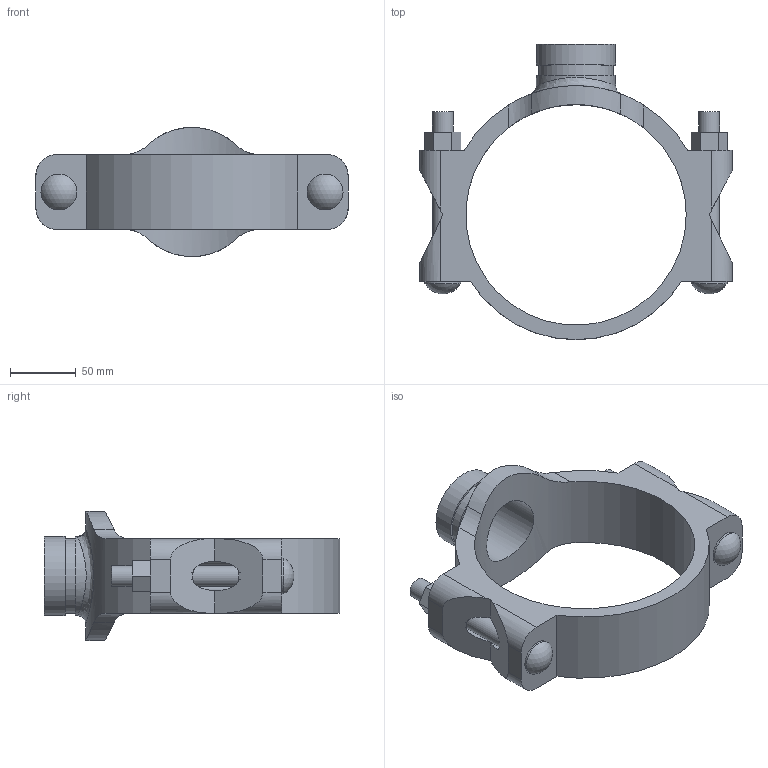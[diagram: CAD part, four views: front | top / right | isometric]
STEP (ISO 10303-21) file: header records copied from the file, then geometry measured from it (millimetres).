
FILE_DESCRIPTION(/* description */ ('VIC SS MECHANICAL T BRANCH OUTLET STYLE 422 (OGS)','CAx-IF Rec.Pracs.---Representation and Presentation of Product Manufacturing Information (PMI)---4.0---2014-10-13'),/* implementation_level */ '2;1');
FILE_NAME(/* name */ 'C:\Files for Export\422\STEP\Victaulic_SS-OGS_Mech-Tee Out_Style 422 (OGS)\Victaulic_SS-OGS_Mech-Tee Out_Style 422 (OGS)_06.0x02.0 (150x50).stp',/* time_stamp */ '2023-03-28T13:59:53+02:00',/* author */ ('jheald'),/* organization */ ('Victaulic'),/* preprocessor_version */ 'ST-DEVELOPER v18.1',/* originating_system */ 'Autodesk Inventor 2020',/* authorisation */ '');
FILE_SCHEMA (('AP242_MANAGED_MODEL_BASED_3D_ENGINEERING_MIM_LF { 1 0 10303 442 1 1 4 }'));
Length unit declared in the file: inch
Products named in the file (1): 422-06.0x02.0
Bounding box: 238.25 x 225.55 x 98.55 mm (x, y, z)
Volume: 681118.5 mm3; surface area: 134784.1 mm2
Topology: 1 solids, 1 shells, 77 faces, 219 edges, 151 vertices
Faces by surface type: plane 43, cylinder 31, sphere 2, bspline 1
Full cylindrical faces by diameter (mm): 15.875 x4, 27.381 x2, 50.8 x1, 57.15 x1, 60.325 x2, 168.275 x1
Entity records: 3135 total; most frequent: CARTESIAN_POINT 855, DIRECTION 457, ORIENTED_EDGE 438, EDGE_CURVE 219, AXIS2_PLACEMENT_3D 165, VERTEX_POINT 151, LINE 127, VECTOR 127
